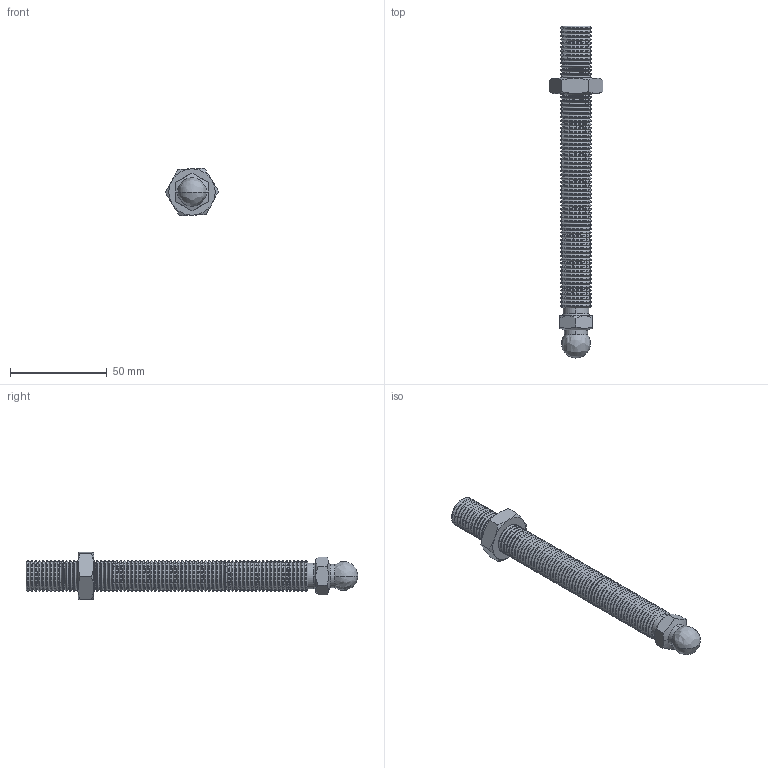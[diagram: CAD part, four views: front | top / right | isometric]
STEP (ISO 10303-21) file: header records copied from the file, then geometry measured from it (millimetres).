
FILE_DESCRIPTION (( 'STEP AP203' ), '1' );
FILE_NAME ('501460_Gewindestange mit Kugel M16x150.step', '2019-05-07T13:43:03', ( '' ), ( '' ), 'SwSTEP 2.0', 'SolidWorks 2017', '' );
FILE_SCHEMA (( 'CONFIG_CONTROL_DESIGN' ));
Length unit declared in the file: millimetre
Products named in the file (1): 501460_Gewindestange mit Kugel M16x150
Bounding box: 27.69 x 172 x 24.5 mm (x, y, z)
Volume: 40016.4 mm3; surface area: 18206.6 mm2
Topology: 6 solids, 6 shells, 630 faces, 1633 edges, 1012 vertices
Faces by surface type: cone 404, cylinder 198, plane 24, bspline 4
Entity records: 19959 total; most frequent: DIRECTION 3826, CARTESIAN_POINT 3778, ORIENTED_EDGE 3258, EDGE_CURVE 1629, AXIS2_PLACEMENT_3D 1612, VERTEX_POINT 1012, CIRCLE 985, EDGE_LOOP 633
